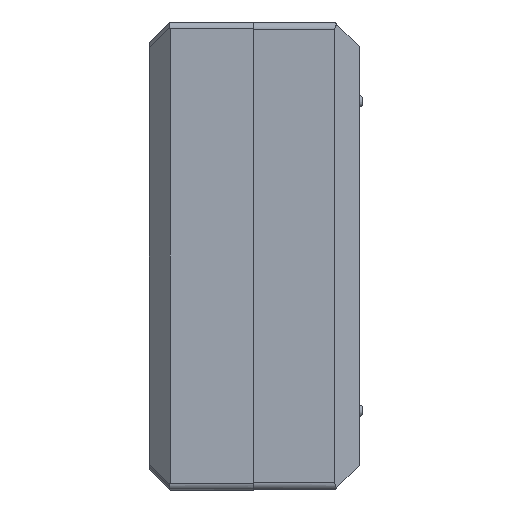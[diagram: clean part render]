
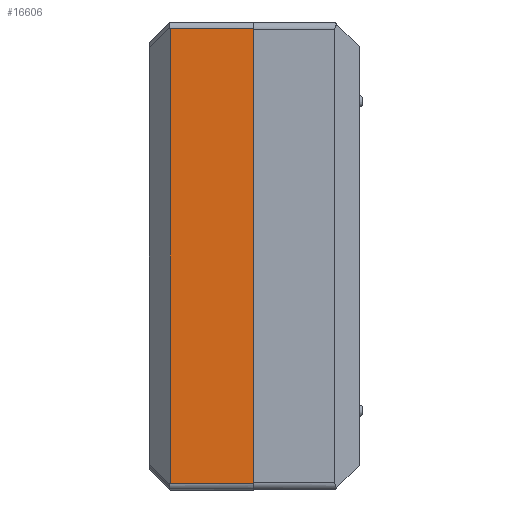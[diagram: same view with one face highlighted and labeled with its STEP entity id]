
A CAD part, left-side view. The second image highlights one B-rep face of the part: STEP entity #16606.
In plain terms, the highlighted planar face has unit normal (-1, 0, 0).
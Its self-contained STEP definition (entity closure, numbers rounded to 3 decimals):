
#336 = LINE ( 'NONE', #1936, #14494 ) ;
#782 = CARTESIAN_POINT ( 'NONE',  ( -62.75, 15., -32.65 ) ) ;
#966 = DIRECTION ( 'NONE',  ( 0., 0., -1. ) ) ;
#1000 = LINE ( 'NONE', #782, #7471 ) ;
#1896 = CARTESIAN_POINT ( 'NONE',  ( -62.75, 12., -32.65 ) ) ;
#1936 = CARTESIAN_POINT ( 'NONE',  ( -62.75, 0., -33.65 ) ) ;
#1947 = ORIENTED_EDGE ( 'NONE', *, *, #4803, .T. ) ;
#2227 = PLANE ( 'NONE',  #3819 ) ;
#2625 = VECTOR ( 'NONE', #966, 1000. ) ;
#3819 = AXIS2_PLACEMENT_3D ( 'NONE', #11242, #12571, #4818 ) ;
#4000 = DIRECTION ( 'NONE',  ( 0., -1., 0. ) ) ;
#4803 = EDGE_CURVE ( 'NONE', #10262, #4811, #6465, .T. ) ;
#4811 = VERTEX_POINT ( 'NONE', #1896 ) ;
#4818 = DIRECTION ( 'NONE',  ( 0., 0., -1. ) ) ;
#4853 = ORIENTED_EDGE ( 'NONE', *, *, #10214, .T. ) ;
#5740 = VECTOR ( 'NONE', #11785, 1000. ) ;
#6465 = LINE ( 'NONE', #15484, #2625 ) ;
#7471 = VECTOR ( 'NONE', #4000, 1000. ) ;
#8721 = CARTESIAN_POINT ( 'NONE',  ( -62.75, 0., 32.65 ) ) ;
#8758 = EDGE_LOOP ( 'NONE', ( #1947, #10765, #4853, #11370 ) ) ;
#9178 = CARTESIAN_POINT ( 'NONE',  ( -62.75, 15., 32.65 ) ) ;
#9383 = VERTEX_POINT ( 'NONE', #9692 ) ;
#9692 = CARTESIAN_POINT ( 'NONE',  ( -62.75, 0., -32.65 ) ) ;
#10214 = EDGE_CURVE ( 'NONE', #9383, #15064, #336, .T. ) ;
#10262 = VERTEX_POINT ( 'NONE', #13413 ) ;
#10765 = ORIENTED_EDGE ( 'NONE', *, *, #12444, .T. ) ;
#10952 = FACE_OUTER_BOUND ( 'NONE', #8758, .T. ) ;
#11242 = CARTESIAN_POINT ( 'NONE',  ( -62.75, 15., -33.65 ) ) ;
#11370 = ORIENTED_EDGE ( 'NONE', *, *, #15663, .T. ) ;
#11785 = DIRECTION ( 'NONE',  ( 0., 1., 0. ) ) ;
#12444 = EDGE_CURVE ( 'NONE', #4811, #9383, #1000, .T. ) ;
#12571 = DIRECTION ( 'NONE',  ( 1., 0., 0. ) ) ;
#13413 = CARTESIAN_POINT ( 'NONE',  ( -62.75, 12., 32.65 ) ) ;
#14494 = VECTOR ( 'NONE', #16534, 1000. ) ;
#15064 = VERTEX_POINT ( 'NONE', #8721 ) ;
#15484 = CARTESIAN_POINT ( 'NONE',  ( -62.75, 12., -33.65 ) ) ;
#15663 = EDGE_CURVE ( 'NONE', #15064, #10262, #16464, .T. ) ;
#16464 = LINE ( 'NONE', #9178, #5740 ) ;
#16534 = DIRECTION ( 'NONE',  ( 0., 0., 1. ) ) ;
#16606 = ADVANCED_FACE ( 'NONE', ( #10952 ), #2227, .F. ) ;
